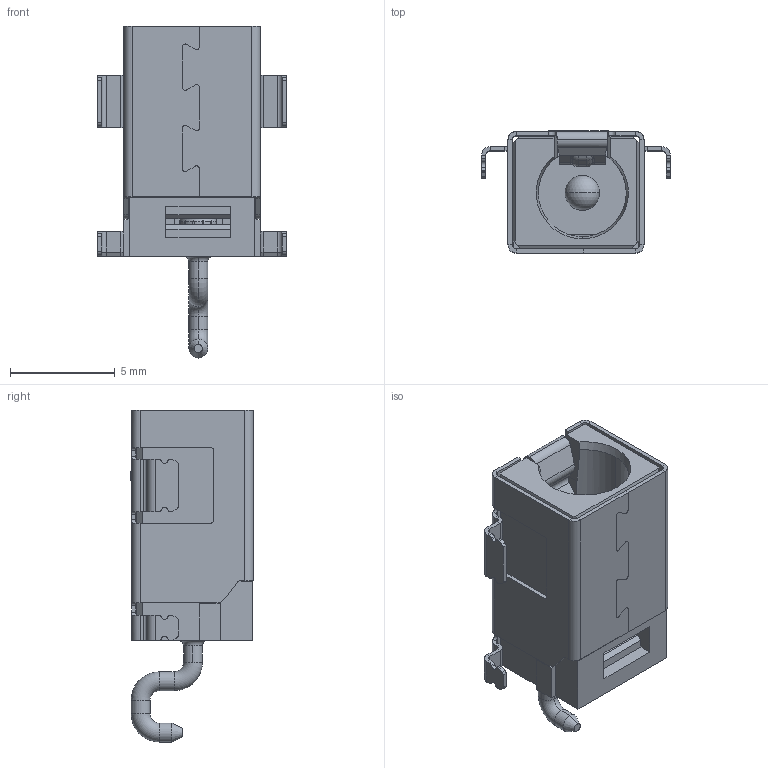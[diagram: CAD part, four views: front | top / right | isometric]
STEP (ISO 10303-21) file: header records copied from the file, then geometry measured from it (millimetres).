
FILE_DESCRIPTION (( 'STEP AP203' ), '1' );
FILE_NAME ('DC400170-0961-30000H-A2.stp', '2023-07-04T02:21:52', ( '' ), ( '' ), 'SwSTEP 2.0', 'SolidWorks 2023', '' );
FILE_SCHEMA (( 'CONFIG_CONTROL_DESIGN' ));
Length unit declared in the file: millimetre
Products named in the file (1): DC400170-0961-30000H-A2
Bounding box: 9 x 5.85 x 15.85 mm (x, y, z)
Volume: 276.6 mm3; surface area: 893.7 mm2
Topology: 1 solids, 2 shells, 896 faces, 2384 edges, 1497 vertices
Faces by surface type: plane 515, cylinder 231, bspline 90, cone 30, torus 20, sphere 10
Entity records: 32139 total; most frequent: CARTESIAN_POINT 10378, ORIENTED_EDGE 4752, DIRECTION 4149, EDGE_CURVE 2376, LINE 1619, VECTOR 1619, VERTEX_POINT 1495, AXIS2_PLACEMENT_3D 1265
